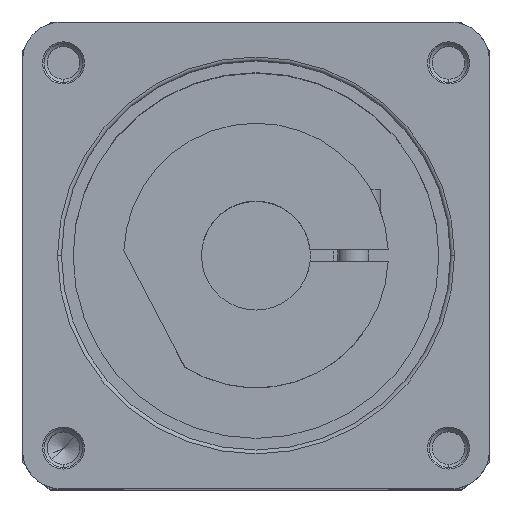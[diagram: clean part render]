
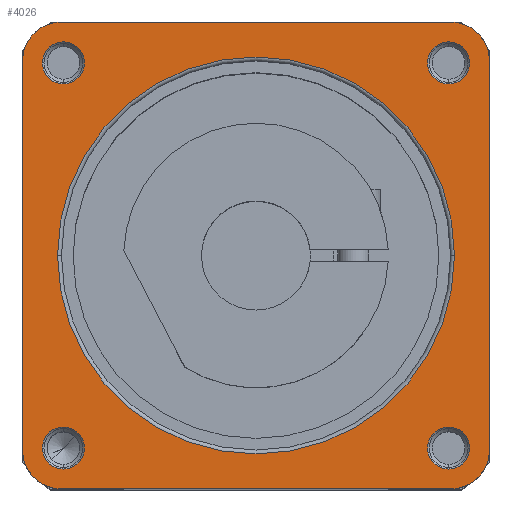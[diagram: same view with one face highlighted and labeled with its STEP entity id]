
A CAD part, top view. The second image highlights one B-rep face of the part: STEP entity #4026.
In plain terms, the highlighted planar face has unit normal (0, 0, 1) as drawn and (0, 1, 0) by its records, which use the part's own axes.
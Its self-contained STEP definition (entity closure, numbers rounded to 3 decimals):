
#2791=CARTESIAN_POINT('',(-25.,41.5,-25.));
#2792=DIRECTION('',(0.,1.,0.));
#2793=DIRECTION('',(0.,0.,-1.));
#2794=AXIS2_PLACEMENT_3D('',#2791,#2792,#2793);
#2796=DIRECTION('',(-1.,0.,0.));
#2797=VECTOR('',#2796,50.);
#2798=CARTESIAN_POINT('',(25.,41.5,-30.));
#2799=LINE('',#2798,#2797);
#2800=CARTESIAN_POINT('',(25.,41.5,-25.));
#2801=DIRECTION('',(0.,1.,0.));
#2802=DIRECTION('',(1.,0.,0.));
#2803=AXIS2_PLACEMENT_3D('',#2800,#2801,#2802);
#2805=DIRECTION('',(0.,0.,-1.));
#2806=VECTOR('',#2805,50.);
#2807=CARTESIAN_POINT('',(30.,41.5,25.));
#2808=LINE('',#2807,#2806);
#2809=CARTESIAN_POINT('',(25.,41.5,25.));
#2810=DIRECTION('',(0.,1.,0.));
#2811=DIRECTION('',(0.,0.,1.));
#2812=AXIS2_PLACEMENT_3D('',#2809,#2810,#2811);
#2814=DIRECTION('',(1.,0.,0.));
#2815=VECTOR('',#2814,50.);
#2816=CARTESIAN_POINT('',(-25.,41.5,30.));
#2817=LINE('',#2816,#2815);
#2818=CARTESIAN_POINT('',(-25.,41.5,25.));
#2819=DIRECTION('',(0.,1.,0.));
#2820=DIRECTION('',(-1.,0.,0.));
#2821=AXIS2_PLACEMENT_3D('',#2818,#2819,#2820);
#2823=DIRECTION('',(0.,0.,1.));
#2824=VECTOR('',#2823,50.);
#2825=CARTESIAN_POINT('',(-30.,41.5,-25.));
#2826=LINE('',#2825,#2824);
#2827=CARTESIAN_POINT('',(-24.749,41.5,24.749));
#2828=DIRECTION('',(0.,-1.,0.));
#2829=DIRECTION('',(1.,0.,0.));
#2830=AXIS2_PLACEMENT_3D('',#2827,#2828,#2829);
#2837=CARTESIAN_POINT('',(-24.749,41.5,24.749));
#2838=DIRECTION('',(0.,-1.,0.));
#2839=DIRECTION('',(-1.,0.,0.));
#2840=AXIS2_PLACEMENT_3D('',#2837,#2838,#2839);
#2873=CARTESIAN_POINT('',(-24.749,41.5,-24.749));
#2874=DIRECTION('',(0.,-1.,0.));
#2875=DIRECTION('',(1.,0.,0.));
#2876=AXIS2_PLACEMENT_3D('',#2873,#2874,#2875);
#2883=CARTESIAN_POINT('',(-24.749,41.5,-24.749));
#2884=DIRECTION('',(0.,-1.,0.));
#2885=DIRECTION('',(-1.,0.,0.));
#2886=AXIS2_PLACEMENT_3D('',#2883,#2884,#2885);
#2919=CARTESIAN_POINT('',(24.749,41.5,-24.749));
#2920=DIRECTION('',(0.,-1.,0.));
#2921=DIRECTION('',(1.,0.,0.));
#2922=AXIS2_PLACEMENT_3D('',#2919,#2920,#2921);
#2929=CARTESIAN_POINT('',(24.749,41.5,-24.749));
#2930=DIRECTION('',(0.,-1.,0.));
#2931=DIRECTION('',(-1.,0.,0.));
#2932=AXIS2_PLACEMENT_3D('',#2929,#2930,#2931);
#2969=CARTESIAN_POINT('',(24.749,41.5,24.749));
#2970=DIRECTION('',(0.,-1.,0.));
#2971=DIRECTION('',(1.,0.,0.));
#2972=AXIS2_PLACEMENT_3D('',#2969,#2970,#2971);
#2979=CARTESIAN_POINT('',(24.749,41.5,24.749));
#2980=DIRECTION('',(0.,-1.,0.));
#2981=DIRECTION('',(-1.,0.,0.));
#2982=AXIS2_PLACEMENT_3D('',#2979,#2980,#2981);
#3033=CARTESIAN_POINT('',(0.,41.5,0.));
#3034=DIRECTION('',(0.,-1.,0.));
#3035=DIRECTION('',(0.,0.,1.));
#3036=AXIS2_PLACEMENT_3D('',#3033,#3034,#3035);
#3048=CARTESIAN_POINT('',(0.,41.5,0.));
#3049=DIRECTION('',(0.,-1.,0.));
#3050=DIRECTION('',(0.,0.,-1.));
#3051=AXIS2_PLACEMENT_3D('',#3048,#3049,#3050);
#3253=CARTESIAN_POINT('',(-30.,41.5,-25.));
#3254=CARTESIAN_POINT('',(-30.,41.5,25.));
#3255=VERTEX_POINT('',#3253);
#3256=VERTEX_POINT('',#3254);
#3257=CARTESIAN_POINT('',(-25.,41.5,30.));
#3258=CARTESIAN_POINT('',(25.,41.5,30.));
#3259=VERTEX_POINT('',#3257);
#3260=VERTEX_POINT('',#3258);
#3261=CARTESIAN_POINT('',(30.,41.5,25.));
#3262=CARTESIAN_POINT('',(30.,41.5,-25.));
#3263=VERTEX_POINT('',#3261);
#3264=VERTEX_POINT('',#3262);
#3265=CARTESIAN_POINT('',(25.,41.5,-30.));
#3266=CARTESIAN_POINT('',(-25.,41.5,-30.));
#3267=VERTEX_POINT('',#3265);
#3268=VERTEX_POINT('',#3266);
#3351=CARTESIAN_POINT('',(27.449,41.5,24.749));
#3352=CARTESIAN_POINT('',(22.049,41.5,24.749));
#3353=VERTEX_POINT('',#3351);
#3354=VERTEX_POINT('',#3352);
#3359=CARTESIAN_POINT('',(-22.049,41.5,24.749));
#3360=CARTESIAN_POINT('',(-27.449,41.5,24.749));
#3361=VERTEX_POINT('',#3359);
#3362=VERTEX_POINT('',#3360);
#3367=CARTESIAN_POINT('',(-22.049,41.5,-24.749));
#3368=CARTESIAN_POINT('',(-27.449,41.5,-24.749));
#3369=VERTEX_POINT('',#3367);
#3370=VERTEX_POINT('',#3368);
#3375=CARTESIAN_POINT('',(27.449,41.5,-24.749));
#3376=CARTESIAN_POINT('',(22.049,41.5,-24.749));
#3377=VERTEX_POINT('',#3375);
#3378=VERTEX_POINT('',#3376);
#3423=CARTESIAN_POINT('',(0.,41.5,25.5));
#3424=CARTESIAN_POINT('',(0.,41.5,-25.5));
#3425=VERTEX_POINT('',#3423);
#3426=VERTEX_POINT('',#3424);
#3980=CARTESIAN_POINT('',(0.,41.5,0.));
#3981=DIRECTION('',(0.,-1.,0.));
#3982=DIRECTION('',(-1.,0.,0.));
#3983=AXIS2_PLACEMENT_3D('',#3980,#3981,#3982);
#3984=PLANE('',#3983);
#3985=ORIENTED_EDGE('',*,*,#3878,.F.);
#3986=ORIENTED_EDGE('',*,*,#3896,.F.);
#3987=ORIENTED_EDGE('',*,*,#3974,.F.);
#3988=ORIENTED_EDGE('',*,*,#3683,.F.);
#3989=ORIENTED_EDGE('',*,*,#3702,.F.);
#3990=ORIENTED_EDGE('',*,*,#3718,.F.);
#3992=ORIENTED_EDGE('',*,*,#3991,.F.);
#3993=ORIENTED_EDGE('',*,*,#3803,.F.);
#3994=EDGE_LOOP('',(#3985,#3986,#3987,#3988,#3989,#3990,#3992,#3993));
#3995=FACE_OUTER_BOUND('',#3994,.F.);
#3997=ORIENTED_EDGE('',*,*,#3996,.F.);
#3999=ORIENTED_EDGE('',*,*,#3998,.F.);
#4000=EDGE_LOOP('',(#3997,#3999));
#4001=FACE_BOUND('',#4000,.F.);
#4003=ORIENTED_EDGE('',*,*,#4002,.F.);
#4005=ORIENTED_EDGE('',*,*,#4004,.F.);
#4006=EDGE_LOOP('',(#4003,#4005));
#4007=FACE_BOUND('',#4006,.F.);
#4009=ORIENTED_EDGE('',*,*,#4008,.F.);
#4011=ORIENTED_EDGE('',*,*,#4010,.F.);
#4012=EDGE_LOOP('',(#4009,#4011));
#4013=FACE_BOUND('',#4012,.F.);
#4015=ORIENTED_EDGE('',*,*,#4014,.F.);
#4017=ORIENTED_EDGE('',*,*,#4016,.F.);
#4018=EDGE_LOOP('',(#4015,#4017));
#4019=FACE_BOUND('',#4018,.F.);
#4021=ORIENTED_EDGE('',*,*,#4020,.F.);
#4023=ORIENTED_EDGE('',*,*,#4022,.F.);
#4024=EDGE_LOOP('',(#4021,#4023));
#4025=FACE_BOUND('',#4024,.F.);
#4026=ADVANCED_FACE('',(#3995,#4001,#4007,#4013,#4019,#4025),#3984,.F.);
#2795=CIRCLE('',#2794,5.);
#2804=CIRCLE('',#2803,5.);
#2813=CIRCLE('',#2812,5.);
#2822=CIRCLE('',#2821,5.);
#2831=CIRCLE('',#2830,2.7);
#2841=CIRCLE('',#2840,2.7);
#2877=CIRCLE('',#2876,2.7);
#2887=CIRCLE('',#2886,2.7);
#2923=CIRCLE('',#2922,2.7);
#2933=CIRCLE('',#2932,2.7);
#2973=CIRCLE('',#2972,2.7);
#2983=CIRCLE('',#2982,2.7);
#3037=CIRCLE('',#3036,25.5);
#3052=CIRCLE('',#3051,25.5);
#3683=EDGE_CURVE('',#3263,#3264,#2808,.T.);
#3702=EDGE_CURVE('',#3260,#3263,#2813,.T.);
#3718=EDGE_CURVE('',#3259,#3260,#2817,.T.);
#3803=EDGE_CURVE('',#3255,#3256,#2826,.T.);
#3878=EDGE_CURVE('',#3268,#3255,#2795,.T.);
#3896=EDGE_CURVE('',#3267,#3268,#2799,.T.);
#3974=EDGE_CURVE('',#3264,#3267,#2804,.T.);
#3991=EDGE_CURVE('',#3256,#3259,#2822,.T.);
#3996=EDGE_CURVE('',#3361,#3362,#2831,.T.);
#3998=EDGE_CURVE('',#3362,#3361,#2841,.T.);
#4002=EDGE_CURVE('',#3369,#3370,#2877,.T.);
#4004=EDGE_CURVE('',#3370,#3369,#2887,.T.);
#4008=EDGE_CURVE('',#3377,#3378,#2923,.T.);
#4010=EDGE_CURVE('',#3378,#3377,#2933,.T.);
#4014=EDGE_CURVE('',#3353,#3354,#2973,.T.);
#4016=EDGE_CURVE('',#3354,#3353,#2983,.T.);
#4020=EDGE_CURVE('',#3425,#3426,#3037,.T.);
#4022=EDGE_CURVE('',#3426,#3425,#3052,.T.);
